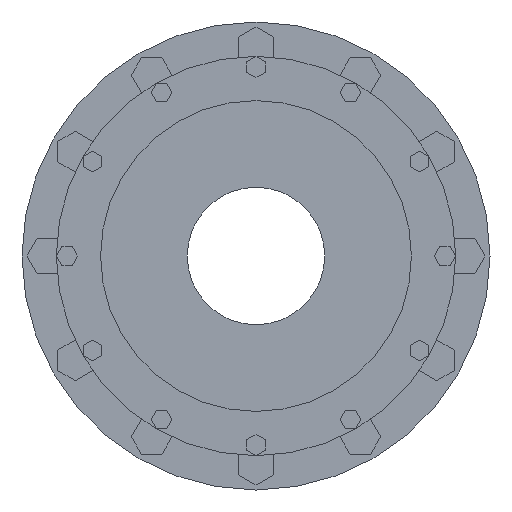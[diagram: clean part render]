
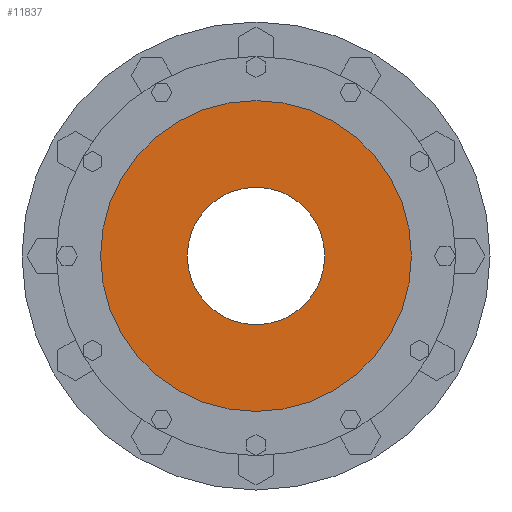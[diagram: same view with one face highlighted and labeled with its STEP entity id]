
A CAD part, left-side view. The second image highlights one B-rep face of the part: STEP entity #11837.
In plain terms, the highlighted planar face has unit normal (-1, 0, 0) as drawn and (1, 0, 0) by its records, which use the part's own axes.
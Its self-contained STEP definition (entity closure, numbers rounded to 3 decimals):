
#11661=CARTESIAN_POINT('',(-8.,0.,0.));
#11662=DIRECTION('',(1.,0.,0.));
#11663=DIRECTION('',(0.,1.,0.));
#11664=AXIS2_PLACEMENT_3D('',#11661,#11662,#11663);
#11671=CARTESIAN_POINT('',(-8.,0.,0.));
#11672=DIRECTION('',(-1.,0.,0.));
#11673=DIRECTION('',(0.,1.,0.));
#11674=AXIS2_PLACEMENT_3D('',#11671,#11672,#11673);
#11676=CARTESIAN_POINT('',(-8.,0.,0.));
#11677=DIRECTION('',(1.,0.,0.));
#11678=DIRECTION('',(0.,1.,0.));
#11679=AXIS2_PLACEMENT_3D('',#11676,#11677,#11678);
#11755=CARTESIAN_POINT('',(-8.,0.,0.));
#11756=DIRECTION('',(1.,0.,0.));
#11757=DIRECTION('',(0.,-1.,0.));
#11758=AXIS2_PLACEMENT_3D('',#11755,#11756,#11757);
#11782=CARTESIAN_POINT('',(-8.,181.,0.));
#11784=VERTEX_POINT('',#11782);
#11786=CARTESIAN_POINT('',(-8.,-181.,0.));
#11788=VERTEX_POINT('',#11786);
#11793=CARTESIAN_POINT('',(-8.,80.,0.));
#11794=CARTESIAN_POINT('',(-8.,-80.,0.));
#11795=VERTEX_POINT('',#11793);
#11796=VERTEX_POINT('',#11794);
#11821=CARTESIAN_POINT('',(-8.,0.,0.));
#11822=DIRECTION('',(1.,0.,0.));
#11823=DIRECTION('',(0.,-1.,0.));
#11824=AXIS2_PLACEMENT_3D('',#11821,#11822,#11823);
#11825=PLANE('',#11824);
#11827=ORIENTED_EDGE('',*,*,#11826,.T.);
#11829=ORIENTED_EDGE('',*,*,#11828,.F.);
#11830=EDGE_LOOP('',(#11827,#11829));
#11831=FACE_OUTER_BOUND('',#11830,.F.);
#11832=ORIENTED_EDGE('',*,*,#11810,.T.);
#11834=ORIENTED_EDGE('',*,*,#11833,.T.);
#11835=EDGE_LOOP('',(#11832,#11834));
#11836=FACE_BOUND('',#11835,.F.);
#11837=ADVANCED_FACE('',(#11831,#11836),#11825,.T.);
#11665=CIRCLE('',#11664,80.);
#11675=CIRCLE('',#11674,181.);
#11680=CIRCLE('',#11679,181.);
#11759=CIRCLE('',#11758,80.);
#11810=EDGE_CURVE('',#11795,#11796,#11665,.T.);
#11826=EDGE_CURVE('',#11784,#11788,#11675,.T.);
#11828=EDGE_CURVE('',#11784,#11788,#11680,.T.);
#11833=EDGE_CURVE('',#11796,#11795,#11759,.T.);
